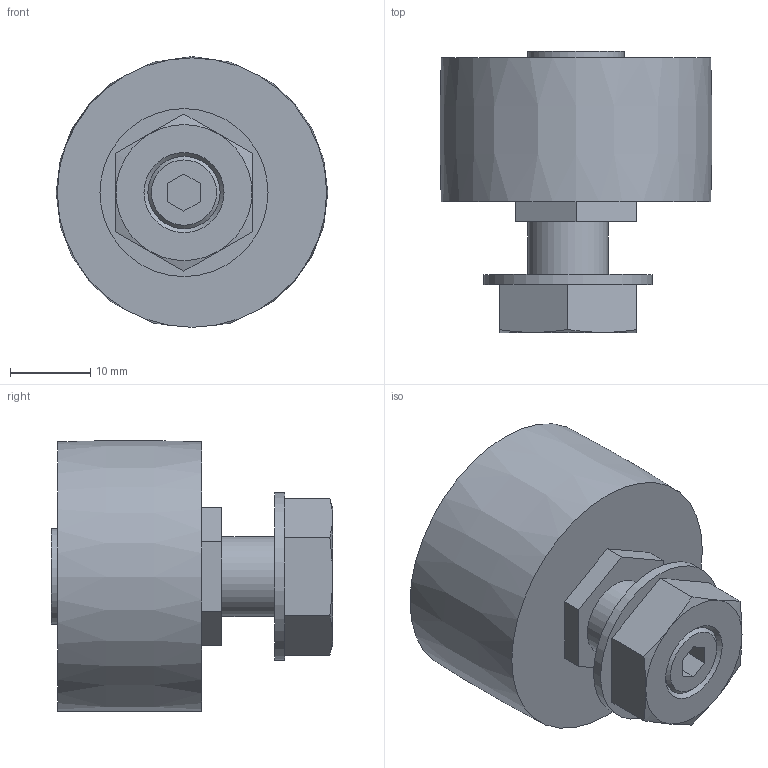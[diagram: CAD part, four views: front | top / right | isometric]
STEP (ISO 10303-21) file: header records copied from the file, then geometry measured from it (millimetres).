
FILE_DESCRIPTION( ( 'STEP AP203' ), '1' );
FILE_NAME( 'p:/temp/worker_53/temp/exporttempdir_4236_947_Oln9Z/format_0/SR34E.stp', '2021-09-29T07:15:41', ( 'License CC BY-ND 4.0' ), ( 'CADENAS' ), ' ', 'PARTsolutions', ' ' );
FILE_SCHEMA( ( 'CONFIG_CONTROL_DESIGN' ) );
Length unit declared in the file: millimetre
Products named in the file (2): SR34E; _SR34E_
Assembly tree (1 placements, depth 2):
  SR34E
    _SR34E_
Bounding box: 33.96 x 35.15 x 33.82 mm (x, y, z)
Volume: 19181.4 mm3; surface area: 5109.8 mm2
Topology: 1 solids, 1 shells, 46 faces, 104 edges, 68 vertices
Faces by surface type: plane 34, cone 8, cylinder 3, bspline 1
Full cylindrical faces by diameter (mm): 10 x1, 12 x1, 21 x1
Entity records: 1334 total; most frequent: CARTESIAN_POINT 275, DIRECTION 194, ORIENTED_EDGE 190, EDGE_CURVE 95, LINE 66, VECTOR 66, VERTEX_POINT 65, AXIS2_PLACEMENT_3D 64
